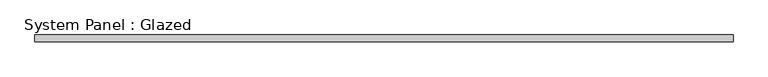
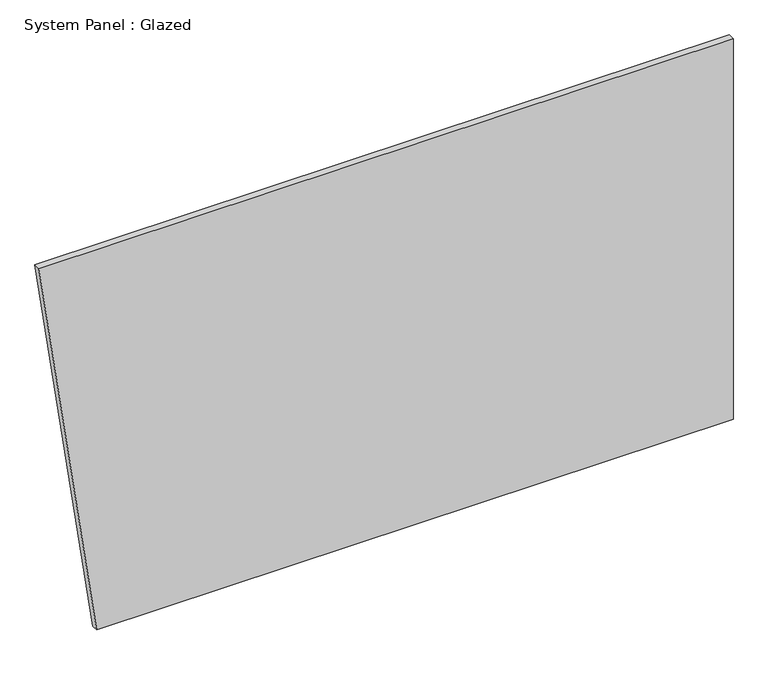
"""IFC4 building model written with IfcOpenShell, lengths in millimetres: plate geometry, System Panel : Glazed."""

from ifc_helpers import new_model, si_unit, frame, origin, place, context, project, spatial, polyline, outline, extrude, source, transform, mapped, element, save


def system_panel_glazed_e95fbaad(model_context):
    return source(origin(), model_context, "Body", "SweptSolid", [
        extrude(outline(polyline([(0.0, -1096.4028779), (0.0, 1315.6834534), (1524.0, 1315.6834534), (1524.0, -1315.6834534), (0.0, -1096.4028779)])), frame((0.0, 19.05, 0.0), z_axis=(0.0, 1.0, 0.0), x_axis=(0.0, 0.0, 1.0)), (0.0, 0.0, 1.0), 25.4),
    ])


if __name__ == "__main__":
    model = new_model("IFC4")
    model_context = context("Model", 3, world=origin())
    ifc_project = project(units=[si_unit("LENGTHUNIT", "METRE", prefix="MILLI")], contexts=[model_context])
    site = spatial("IfcSite", under=ifc_project)
    building = spatial("IfcBuilding", under=site)
    placement = place(None, origin())
    system_panel_glazed_shape = system_panel_glazed_e95fbaad(model_context)
    element("IfcPlate", 1, ObjectType="System Panel : Glazed", at=placement, inside=building, context=model_context, shape_type="MappedRepresentation", body=[
        mapped(system_panel_glazed_shape, transform((0.0, 0.0, 0.0), x_axis=(1.0, 0.0, 0.0), y_axis=(0.0, 1.0, 0.0), z_axis=(0.0, 0.0, 1.0))),
    ])
    save(model, "model.ifc")
